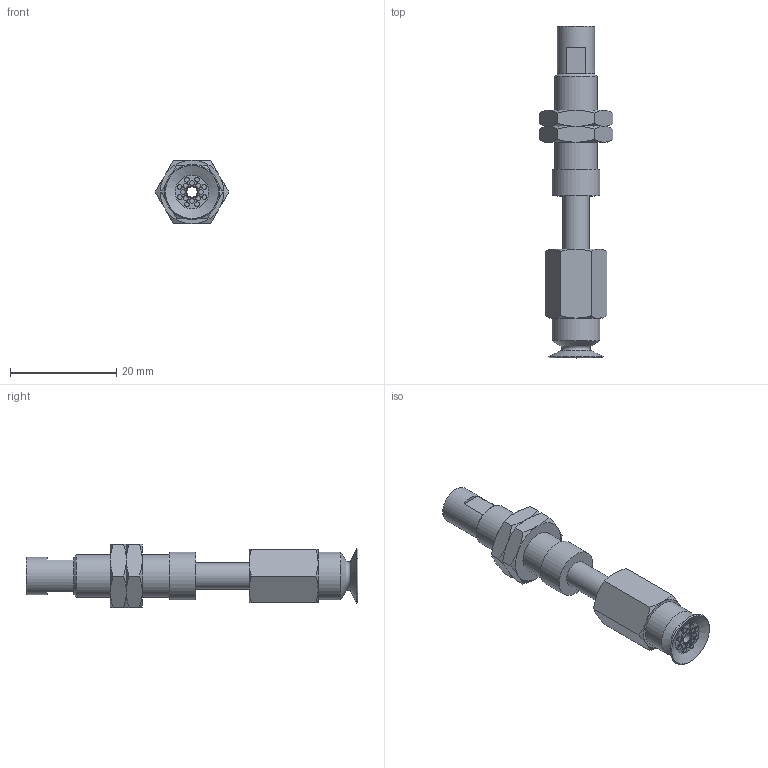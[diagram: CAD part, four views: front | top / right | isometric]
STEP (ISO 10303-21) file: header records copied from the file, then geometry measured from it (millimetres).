
FILE_DESCRIPTION(('STEP AP203'),'1');
FILE_NAME('.stp','2025-08-26T08:30:39',(' '),(' '),'Spatial InterOp 3D',' ',' ');
FILE_SCHEMA(('CONFIG_CONTROL_DESIGN'));
Length unit declared in the file: millimetre
Products named in the file (6): BNABPATS-10A-10-※; ADAPTER; NAPATS-10A-10--M; NAPATS-10A-10--F; Nut-10A-S; BPAG-10A-※_3D
Assembly tree (6 placements, depth 2):
  BNABPATS-10A-10-※
    ADAPTER
    NAPATS-10A-10--M
    NAPATS-10A-10--F
    Nut-10A-S  x2
    BPAG-10A-※_3D
Bounding box: 13.86 x 62.5 x 12 mm (x, y, z)
Volume: 3494.7 mm3; surface area: 4102.7 mm2
Topology: 6 solids, 6 shells, 145 faces, 283 edges, 173 vertices
Faces by surface type: plane 57, cone 46, cylinder 32, torus 10
Full cylindrical faces by diameter (mm): 0.9 x16, 2 x3, 4 x2, 4.134 x1, 5 x2, 6 x2, 7 x1, 7.188 x2, 8 x1, 9 x2
Entity records: 3284 total; most frequent: CARTESIAN_POINT 731, DIRECTION 494, ORIENTED_EDGE 354, AXIS2_PLACEMENT_3D 236, EDGE_LOOP 204, EDGE_CURVE 177, FACE_OUTER_BOUND 163, VERTEX_POINT 137
